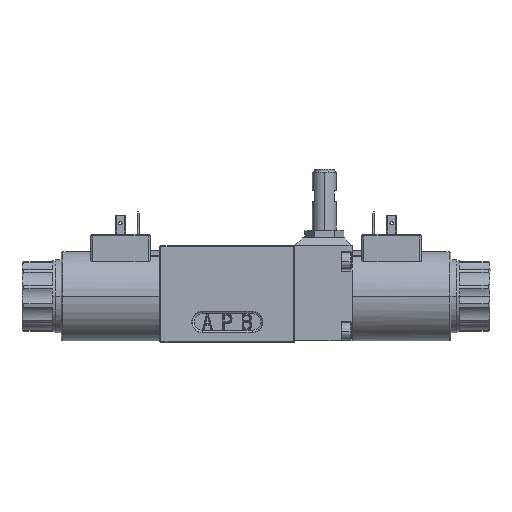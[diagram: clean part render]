
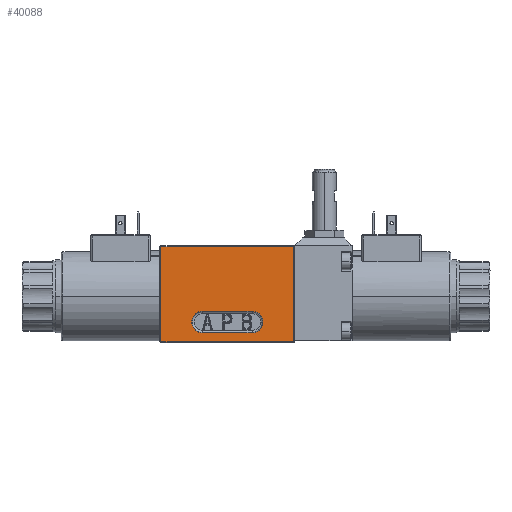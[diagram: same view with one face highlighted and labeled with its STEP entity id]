
A CAD part, top view. The second image highlights one B-rep face of the part: STEP entity #40088.
In plain terms, the highlighted planar face has unit normal (0, 0, 1).
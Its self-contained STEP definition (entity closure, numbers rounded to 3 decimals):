
#753 = DIRECTION ( 'NONE',  ( 0., 0., -1. ) ) ;
#896 = CARTESIAN_POINT ( 'NONE',  ( 12.5, -8.029, 23. ) ) ;
#3277 = CARTESIAN_POINT ( 'NONE',  ( -12.5, -13.5, 23. ) ) ;
#6349 = FACE_OUTER_BOUND ( 'NONE', #75607, .T. ) ;
#8489 = DIRECTION ( 'NONE',  ( 1., 0., 0. ) ) ;
#8896 = DIRECTION ( 'NONE',  ( 0., 0., 1. ) ) ;
#9118 = CARTESIAN_POINT ( 'NONE',  ( 12.5, -18.971, 23. ) ) ;
#9322 = ORIENTED_EDGE ( 'NONE', *, *, #86013, .T. ) ;
#11162 = LINE ( 'NONE', #56418, #20466 ) ;
#13101 = ORIENTED_EDGE ( 'NONE', *, *, #66455, .T. ) ;
#13840 = EDGE_LOOP ( 'NONE', ( #89082, #84577, #62596, #92522, #9322 ) ) ;
#14116 = LINE ( 'NONE', #96148, #71041 ) ;
#15147 = DIRECTION ( 'NONE',  ( 1., 0., 0. ) ) ;
#15940 = CARTESIAN_POINT ( 'NONE',  ( 12.5, -13.5, 23. ) ) ;
#16213 = LINE ( 'NONE', #9118, #39477 ) ;
#16281 = CIRCLE ( 'NONE', #61710, 5.471 ) ;
#16979 = DIRECTION ( 'NONE',  ( 1., 0., 0. ) ) ;
#18257 = VERTEX_POINT ( 'NONE', #39191 ) ;
#19730 = CARTESIAN_POINT ( 'NONE',  ( 33.5, 24.5, 23. ) ) ;
#20466 = VECTOR ( 'NONE', #41780, 1000. ) ;
#20784 = CARTESIAN_POINT ( 'NONE',  ( -33.5, 24.5, 23. ) ) ;
#23790 = CARTESIAN_POINT ( 'NONE',  ( -12.5, -18.971, 23. ) ) ;
#23838 = EDGE_CURVE ( 'NONE', #79088, #81029, #16213, .T. ) ;
#24196 = CIRCLE ( 'NONE', #77842, 5.471 ) ;
#25170 = EDGE_CURVE ( 'NONE', #81029, #55048, #63335, .T. ) ;
#26926 = CARTESIAN_POINT ( 'NONE',  ( -33.5, -24., 23. ) ) ;
#29859 = EDGE_CURVE ( 'NONE', #84855, #18257, #51885, .T. ) ;
#30375 = VERTEX_POINT ( 'NONE', #19730 ) ;
#32105 = VECTOR ( 'NONE', #48967, 1000. ) ;
#33991 = EDGE_CURVE ( 'NONE', #89722, #79088, #24196, .T. ) ;
#36171 = AXIS2_PLACEMENT_3D ( 'NONE', #3277, #61733, #62379 ) ;
#36472 = CARTESIAN_POINT ( 'NONE',  ( 12.5, -13.5, 23. ) ) ;
#36821 = VECTOR ( 'NONE', #15147, 1000. ) ;
#37381 = DIRECTION ( 'NONE',  ( 0., 1., 0. ) ) ;
#39191 = CARTESIAN_POINT ( 'NONE',  ( -33.5, -23.5, 23. ) ) ;
#39477 = VECTOR ( 'NONE', #68559, 1000. ) ;
#39566 = CARTESIAN_POINT ( 'NONE',  ( -35., 24.5, 23. ) ) ;
#40088 = ADVANCED_FACE ( 'NONE', ( #75933, #6349 ), #82238, .T. ) ;
#41780 = DIRECTION ( 'NONE',  ( 1., 0., 0. ) ) ;
#43488 = VECTOR ( 'NONE', #91503, 1000. ) ;
#43781 = ORIENTED_EDGE ( 'NONE', *, *, #29859, .T. ) ;
#44978 = VERTEX_POINT ( 'NONE', #63741 ) ;
#47074 = CARTESIAN_POINT ( 'NONE',  ( -12.5, -8.029, 23. ) ) ;
#48967 = DIRECTION ( 'NONE',  ( 0., -1., 0. ) ) ;
#51885 = LINE ( 'NONE', #26926, #32105 ) ;
#53664 = AXIS2_PLACEMENT_3D ( 'NONE', #68328, #8896, #16979 ) ;
#55048 = VERTEX_POINT ( 'NONE', #47074 ) ;
#56069 = CARTESIAN_POINT ( 'NONE',  ( 17.971, -13.5, 23. ) ) ;
#56305 = CARTESIAN_POINT ( 'NONE',  ( 33.5, -23.5, 23. ) ) ;
#56418 = CARTESIAN_POINT ( 'NONE',  ( -35., -23.5, 23. ) ) ;
#59180 = EDGE_CURVE ( 'NONE', #77671, #30375, #14116, .T. ) ;
#61710 = AXIS2_PLACEMENT_3D ( 'NONE', #36472, #80964, #79708 ) ;
#61733 = DIRECTION ( 'NONE',  ( 0., 0., -1. ) ) ;
#62379 = DIRECTION ( 'NONE',  ( 1., 0., 0. ) ) ;
#62596 = ORIENTED_EDGE ( 'NONE', *, *, #23838, .T. ) ;
#63335 = CIRCLE ( 'NONE', #36171, 5.471 ) ;
#63741 = CARTESIAN_POINT ( 'NONE',  ( 12.5, -8.029, 23. ) ) ;
#66455 = EDGE_CURVE ( 'NONE', #18257, #77671, #11162, .T. ) ;
#67899 = LINE ( 'NONE', #39566, #43488 ) ;
#68328 = CARTESIAN_POINT ( 'NONE',  ( -35., -24., 23. ) ) ;
#68559 = DIRECTION ( 'NONE',  ( -1., 0., 0. ) ) ;
#71041 = VECTOR ( 'NONE', #37381, 1000. ) ;
#75607 = EDGE_LOOP ( 'NONE', ( #86872, #43781, #13101, #87438 ) ) ;
#75933 = FACE_BOUND ( 'NONE', #13840, .T. ) ;
#77671 = VERTEX_POINT ( 'NONE', #56305 ) ;
#77842 = AXIS2_PLACEMENT_3D ( 'NONE', #15940, #753, #8489 ) ;
#79088 = VERTEX_POINT ( 'NONE', #83438 ) ;
#79708 = DIRECTION ( 'NONE',  ( 1., 0., 0. ) ) ;
#80964 = DIRECTION ( 'NONE',  ( 0., 0., -1. ) ) ;
#81029 = VERTEX_POINT ( 'NONE', #23790 ) ;
#82238 = PLANE ( 'NONE',  #53664 ) ;
#83438 = CARTESIAN_POINT ( 'NONE',  ( 12.5, -18.971, 23. ) ) ;
#84577 = ORIENTED_EDGE ( 'NONE', *, *, #33991, .T. ) ;
#84855 = VERTEX_POINT ( 'NONE', #20784 ) ;
#86013 = EDGE_CURVE ( 'NONE', #55048, #44978, #92530, .T. ) ;
#86872 = ORIENTED_EDGE ( 'NONE', *, *, #87984, .T. ) ;
#87438 = ORIENTED_EDGE ( 'NONE', *, *, #59180, .T. ) ;
#87984 = EDGE_CURVE ( 'NONE', #30375, #84855, #67899, .T. ) ;
#89082 = ORIENTED_EDGE ( 'NONE', *, *, #89871, .T. ) ;
#89722 = VERTEX_POINT ( 'NONE', #56069 ) ;
#89871 = EDGE_CURVE ( 'NONE', #44978, #89722, #16281, .T. ) ;
#91503 = DIRECTION ( 'NONE',  ( -1., 0., 0. ) ) ;
#92522 = ORIENTED_EDGE ( 'NONE', *, *, #25170, .T. ) ;
#92530 = LINE ( 'NONE', #896, #36821 ) ;
#96148 = CARTESIAN_POINT ( 'NONE',  ( 33.5, -24., 23. ) ) ;
